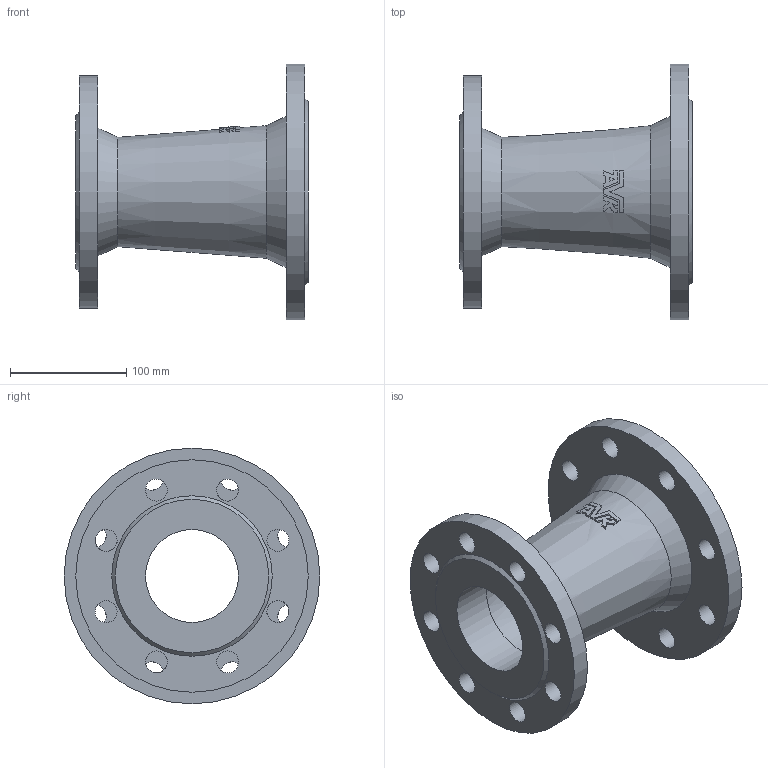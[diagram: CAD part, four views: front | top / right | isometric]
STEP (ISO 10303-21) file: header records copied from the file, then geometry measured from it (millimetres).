
FILE_DESCRIPTION (( 'STEP AP203' ), '1' );
FILE_NAME ('O_712_2210_DN100_DN80_1X_REV01.step', '2024-08-14T11:53:32', ( '' ), ( '' ), 'SwSTEP 2.0', 'SolidWorks 2022', '' );
FILE_SCHEMA (( 'CONFIG_CONTROL_DESIGN' ));
Length unit declared in the file: millimetre
Products named in the file (1): O_712_2210_DN100_DN80_1X_REV01
Bounding box: 200 x 220 x 220 mm (x, y, z)
Volume: 1290310.3 mm3; surface area: 243925.1 mm2
Topology: 1 solids, 1 shells, 81 faces, 226 edges, 146 vertices
Faces by surface type: plane 49, cylinder 22, cone 10
Full cylindrical faces by diameter (mm): 19 x16, 80 x1, 100 x1, 200 x1, 220 x1
Entity records: 2548 total; most frequent: CARTESIAN_POINT 567, DIRECTION 407, ORIENTED_EDGE 364, AXIS2_PLACEMENT_3D 185, EDGE_CURVE 182, EDGE_LOOP 141, VERTEX_POINT 129, CIRCLE 103
